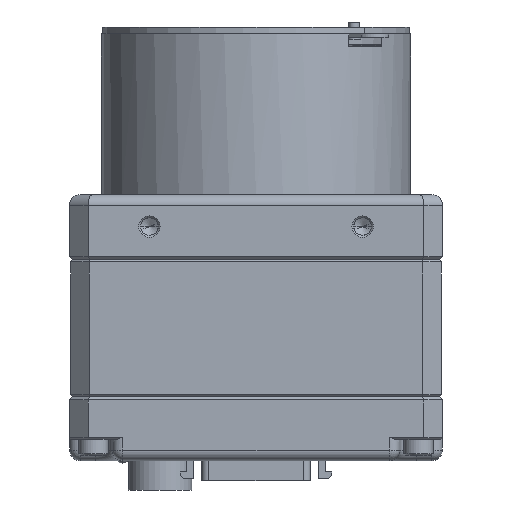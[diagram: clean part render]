
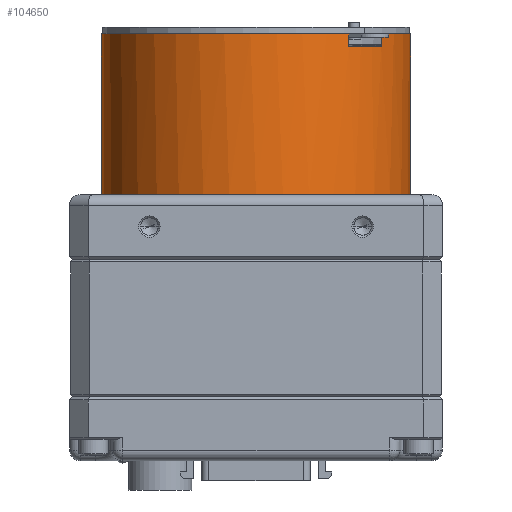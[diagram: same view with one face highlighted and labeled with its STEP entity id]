
A CAD part, front view. The second image highlights one B-rep face of the part: STEP entity #104650.
In plain terms, the highlighted cylindrical face has radius 29 mm (diameter 58 mm), a partial arc.
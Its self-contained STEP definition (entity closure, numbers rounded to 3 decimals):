
#92105=DIRECTION('',(0.,0.,1.));
#92106=VECTOR('',#92105,30.23);
#92107=CARTESIAN_POINT('',(29.,0.,3.5));
#92108=LINE('',#92107,#92106);
#92119=CARTESIAN_POINT('',(0.,0.,31.3));
#92120=DIRECTION('',(0.,0.,1.));
#92121=DIRECTION('',(0.602,-0.799,0.));
#92122=AXIS2_PLACEMENT_3D('',#92119,#92120,#92121);
#92124=DIRECTION('',(0.,0.,1.));
#92125=VECTOR('',#92124,2.43);
#92126=CARTESIAN_POINT('',(23.492,-17.004,31.3));
#92127=LINE('',#92126,#92125);
#92128=CARTESIAN_POINT('',(0.,0.,3.5));
#92129=DIRECTION('',(0.,0.,1.));
#92130=DIRECTION('',(0.,-1.,0.));
#92131=AXIS2_PLACEMENT_3D('',#92128,#92129,#92130);
#92133=CARTESIAN_POINT('',(0.,0.,3.5));
#92134=DIRECTION('',(0.,0.,1.));
#92135=DIRECTION('',(-1.,0.,0.));
#92136=AXIS2_PLACEMENT_3D('',#92133,#92134,#92135);
#92138=DIRECTION('',(0.,0.,1.));
#92139=VECTOR('',#92138,30.23);
#92140=CARTESIAN_POINT('',(-29.,0.,3.5));
#92141=LINE('',#92140,#92139);
#92142=DIRECTION('',(0.,0.,1.));
#92143=VECTOR('',#92142,2.43);
#92144=CARTESIAN_POINT('',(17.453,-23.16,31.3));
#92145=LINE('',#92144,#92143);
#92383=CARTESIAN_POINT('',(0.,0.,33.73));
#92384=DIRECTION('',(0.,0.,1.));
#92385=DIRECTION('',(-1.,0.,0.));
#92386=AXIS2_PLACEMENT_3D('',#92383,#92384,#92385);
#92393=CARTESIAN_POINT('',(0.,0.,33.73));
#92394=DIRECTION('',(0.,0.,-1.));
#92395=DIRECTION('',(1.,0.,0.));
#92396=AXIS2_PLACEMENT_3D('',#92393,#92394,#92395);
#103795=CARTESIAN_POINT('',(29.,0.,33.73));
#103796=CARTESIAN_POINT('',(-29.,0.,33.73));
#103797=VERTEX_POINT('',#103795);
#103798=VERTEX_POINT('',#103796);
#103831=CARTESIAN_POINT('',(29.,0.,3.5));
#103832=VERTEX_POINT('',#103831);
#103833=CARTESIAN_POINT('',(-29.,0.,3.5));
#103834=VERTEX_POINT('',#103833);
#103907=CARTESIAN_POINT('',(17.453,-23.16,33.73));
#103908=VERTEX_POINT('',#103907);
#103909=CARTESIAN_POINT('',(17.453,-23.16,31.3));
#103910=VERTEX_POINT('',#103909);
#103912=CARTESIAN_POINT('',(23.492,-17.004,33.73));
#103914=VERTEX_POINT('',#103912);
#103916=CARTESIAN_POINT('',(23.492,-17.004,31.3));
#103918=VERTEX_POINT('',#103916);
#104221=CARTESIAN_POINT('',(0.,-29.,3.5));
#104222=VERTEX_POINT('',#104221);
#104629=CARTESIAN_POINT('',(0.,0.,0.));
#104630=DIRECTION('',(0.,0.,1.));
#104631=DIRECTION('',(1.,0.,0.));
#104632=AXIS2_PLACEMENT_3D('',#104629,#104630,#104631);
#104633=CYLINDRICAL_SURFACE('',#104632,29.);
#104635=ORIENTED_EDGE('',*,*,#104634,.T.);
#104637=ORIENTED_EDGE('',*,*,#104636,.T.);
#104639=ORIENTED_EDGE('',*,*,#104638,.F.);
#104640=ORIENTED_EDGE('',*,*,#104618,.F.);
#104641=ORIENTED_EDGE('',*,*,#104599,.F.);
#104642=ORIENTED_EDGE('',*,*,#104580,.F.);
#104643=ORIENTED_EDGE('',*,*,#104622,.T.);
#104645=ORIENTED_EDGE('',*,*,#104644,.T.);
#104647=ORIENTED_EDGE('',*,*,#104646,.F.);
#104648=EDGE_LOOP('',(#104635,#104637,#104639,#104640,#104641,#104642,#104643,
#104645,#104647));
#104649=FACE_OUTER_BOUND('',#104648,.F.);
#104650=ADVANCED_FACE('',(#104649),#104633,.T.);
#92123=CIRCLE('',#92122,29.);
#92132=CIRCLE('',#92131,29.);
#92137=CIRCLE('',#92136,29.);
#92387=CIRCLE('',#92386,29.);
#92397=CIRCLE('',#92396,29.);
#104580=EDGE_CURVE('',#103834,#104222,#92137,.T.);
#104599=EDGE_CURVE('',#104222,#103832,#92132,.T.);
#104618=EDGE_CURVE('',#103832,#103797,#92108,.T.);
#104622=EDGE_CURVE('',#103834,#103798,#92141,.T.);
#104634=EDGE_CURVE('',#103910,#103918,#92123,.T.);
#104636=EDGE_CURVE('',#103918,#103914,#92127,.T.);
#104638=EDGE_CURVE('',#103797,#103914,#92397,.T.);
#104644=EDGE_CURVE('',#103798,#103908,#92387,.T.);
#104646=EDGE_CURVE('',#103910,#103908,#92145,.T.);
